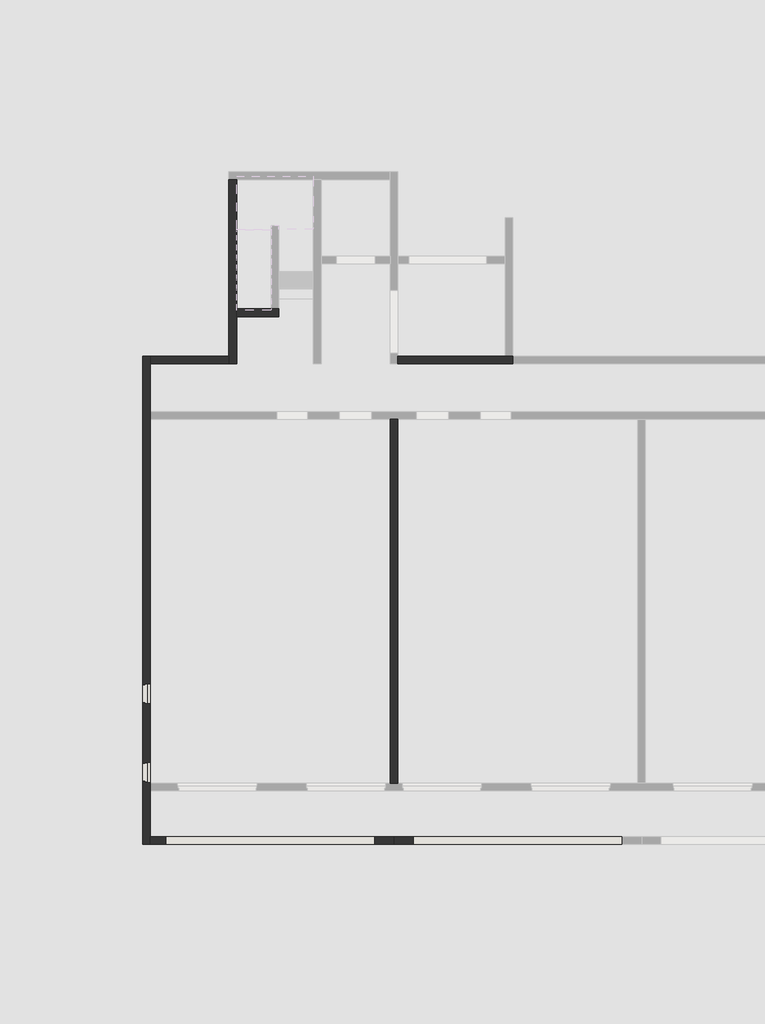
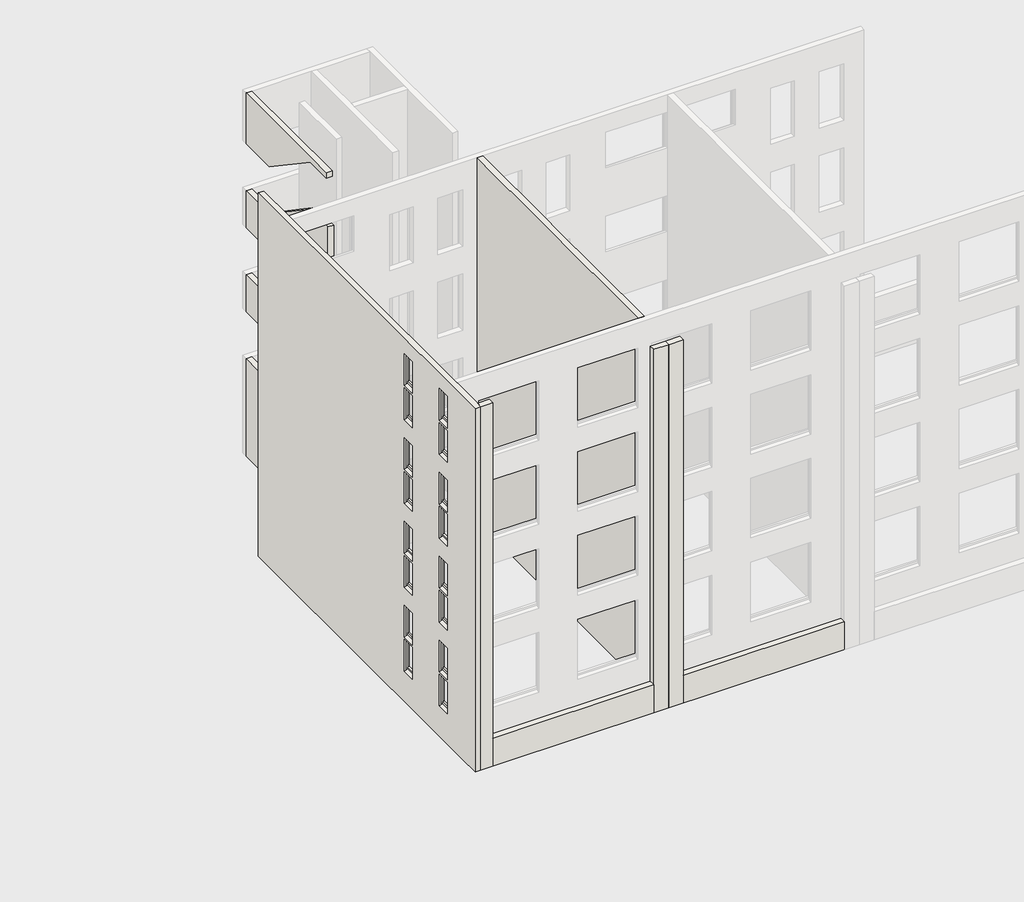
# One storey, part 1 of 5: 11 walls.
"""IFC4 building model written with IfcOpenShell, lengths in millimetres."""

from ifc_helpers import new_model, si_unit, frame, origin, place, context, project, spatial, polyline, outline, extrude, faceted_brep, element, save

model = new_model("IFC4")

# Units and contexts
model_context = context("Model", 3, world=origin())
ifc_project = project(units=[si_unit("LENGTHUNIT", "METRE", prefix="MILLI")], contexts=[model_context])

# Site, building, storey
site = spatial("IfcSite", under=ifc_project)
building = spatial("IfcBuilding", under=site)
storey = spatial("IfcBuildingStorey", under=building, Name="設計GL", Elevation=0.0)

# Walls
placement = place(None, origin())
element("IfcWall", 1, ObjectType="(R)RC200", at=placement, inside=storey, context=model_context, shape_type="Brep", body=[
    faceted_brep([(-11078.7187246, -16870.1171638, -1200.0), (-11078.7187246, -16670.1171638, -1200.0), (-11078.7187246, -15470.1171638, -1200.0), (-11078.7187246, -15270.1171638, -1200.0), (-11078.7187246, -5800.1171638, -1200.0), (-11078.7187246, -5600.1171638, -1200.0), (-11078.7187246, -4350.1171638, -1200.0), (-11078.7187246, -4150.1171638, -1200.0), (-11078.7187246, -4150.1171638, 2100.0), (-11078.7187246, -4150.1171638, 3800.0), (-11078.7187246, -4150.1171638, 5100.0), (-11078.7187246, -4150.1171638, 6800.0), (-11078.7187246, -4150.1171638, 8100.0), (-11078.7187246, -4150.1171638, 9800.0), (-11078.7187246, -4150.1171638, 11100.0), (-11078.7187246, -4150.1171638, 13000.0), (-11078.7187246, -5600.1171638, 13000.0), (-11078.7187246, -5800.1171638, 13000.0), (-11078.7187246, -9720.1171638, 13000.0), (-11078.7187246, -9920.1171638, 13000.0), (-11078.7187246, -15270.1171638, 13000.0), (-11078.7187246, -15470.1171638, 13000.0), (-11078.7187246, -16670.1171638, 13000.0), (-11078.7187246, -16870.1171638, 13000.0), (-11078.7187246, -14730.1171638, 2245.0), (-11078.7187246, -14730.1171638, 1175.0), (-11078.7187246, -15260.1171638, 1175.0), (-11078.7187246, -15260.1171638, 2245.0), (-11078.7187246, -12680.1171638, 2245.0), (-11078.7187246, -12680.1171638, 1175.0), (-11078.7187246, -13210.1171638, 1175.0), (-11078.7187246, -13210.1171638, 2245.0), (-11078.7187246, -12680.1171638, 3465.0), (-11078.7187246, -12680.1171638, 2395.0), (-11078.7187246, -13210.1171638, 2395.0), (-11078.7187246, -13210.1171638, 3465.0), (-11078.7187246, -14730.1171638, 3465.0), (-11078.7187246, -14730.1171638, 2395.0), (-11078.7187246, -15260.1171638, 2395.0), (-11078.7187246, -15260.1171638, 3465.0), (-11078.7187246, -12680.1171638, 6465.0), (-11078.7187246, -12680.1171638, 5395.0), (-11078.7187246, -13210.1171638, 5395.0), (-11078.7187246, -13210.1171638, 6465.0), (-11078.7187246, -14730.1171638, 6465.0), (-11078.7187246, -14730.1171638, 5395.0), (-11078.7187246, -15260.1171638, 5395.0), (-11078.7187246, -15260.1171638, 6465.0), (-11078.7187246, -12680.1171638, 5245.0), (-11078.7187246, -12680.1171638, 4175.0), (-11078.7187246, -13210.1171638, 4175.0), (-11078.7187246, -13210.1171638, 5245.0), (-11078.7187246, -14730.1171638, 5245.0), (-11078.7187246, -14730.1171638, 4175.0), (-11078.7187246, -15260.1171638, 4175.0), (-11078.7187246, -15260.1171638, 5245.0), (-11078.7187246, -12680.1171638, 9465.0), (-11078.7187246, -12680.1171638, 8395.0), (-11078.7187246, -13210.1171638, 8395.0), (-11078.7187246, -13210.1171638, 9465.0), (-11078.7187246, -14730.1171638, 9465.0), (-11078.7187246, -14730.1171638, 8395.0), (-11078.7187246, -15260.1171638, 8395.0), (-11078.7187246, -15260.1171638, 9465.0), (-11078.7187246, -12680.1171638, 8245.0), (-11078.7187246, -12680.1171638, 7175.0), (-11078.7187246, -13210.1171638, 7175.0), (-11078.7187246, -13210.1171638, 8245.0), (-11078.7187246, -14730.1171638, 8245.0), (-11078.7187246, -14730.1171638, 7175.0), (-11078.7187246, -15260.1171638, 7175.0), (-11078.7187246, -15260.1171638, 8245.0), (-11078.7187246, -12680.1171638, 12465.0), (-11078.7187246, -12680.1171638, 11395.0), (-11078.7187246, -13210.1171638, 11395.0), (-11078.7187246, -13210.1171638, 12465.0), (-11078.7187246, -14730.1171638, 12465.0), (-11078.7187246, -14730.1171638, 11395.0), (-11078.7187246, -15260.1171638, 11395.0), (-11078.7187246, -15260.1171638, 12465.0), (-11078.7187246, -12680.1171638, 11245.0), (-11078.7187246, -12680.1171638, 10175.0), (-11078.7187246, -13210.1171638, 10175.0), (-11078.7187246, -13210.1171638, 11245.0), (-11078.7187246, -14730.1171638, 11245.0), (-11078.7187246, -14730.1171638, 10175.0), (-11078.7187246, -15260.1171638, 10175.0), (-11078.7187246, -15260.1171638, 11245.0), (-11278.7187246, -16870.1171638, -1200.0), (-11278.7187246, -16870.1171638, 13000.0), (-11278.7187246, -4150.1171638, 13000.0), (-11278.7187246, -4150.1171638, -1200.0), (-11278.7187246, -15230.1171638, 1085.0), (-11278.7187246, -14760.1171638, 1085.0), (-11278.7187246, -14760.1171638, 2220.0), (-11278.7187246, -15230.1171638, 2220.0), (-11278.7187246, -13180.1171638, 1085.0), (-11278.7187246, -12710.1171638, 1085.0), (-11278.7187246, -12710.1171638, 2220.0), (-11278.7187246, -13180.1171638, 2220.0), (-11278.7187246, -13180.1171638, 2305.0), (-11278.7187246, -12710.1171638, 2305.0), (-11278.7187246, -12710.1171638, 3440.0), (-11278.7187246, -13180.1171638, 3440.0), (-11278.7187246, -15230.1171638, 2305.0), (-11278.7187246, -14760.1171638, 2305.0), (-11278.7187246, -14760.1171638, 3440.0), (-11278.7187246, -15230.1171638, 3440.0), (-11278.7187246, -13180.1171638, 5305.0), (-11278.7187246, -12710.1171638, 5305.0), (-11278.7187246, -12710.1171638, 6440.0), (-11278.7187246, -13180.1171638, 6440.0), (-11278.7187246, -15230.1171638, 5305.0), (-11278.7187246, -14760.1171638, 5305.0), (-11278.7187246, -14760.1171638, 6440.0), (-11278.7187246, -15230.1171638, 6440.0), (-11278.7187246, -13180.1171638, 4085.0), (-11278.7187246, -12710.1171638, 4085.0), (-11278.7187246, -12710.1171638, 5220.0), (-11278.7187246, -13180.1171638, 5220.0), (-11278.7187246, -15230.1171638, 4085.0), (-11278.7187246, -14760.1171638, 4085.0), (-11278.7187246, -14760.1171638, 5220.0), (-11278.7187246, -15230.1171638, 5220.0), (-11278.7187246, -13180.1171638, 8305.0), (-11278.7187246, -12710.1171638, 8305.0), (-11278.7187246, -12710.1171638, 9440.0), (-11278.7187246, -13180.1171638, 9440.0), (-11278.7187246, -15230.1171638, 8305.0), (-11278.7187246, -14760.1171638, 8305.0), (-11278.7187246, -14760.1171638, 9440.0), (-11278.7187246, -15230.1171638, 9440.0), (-11278.7187246, -13180.1171638, 7085.0), (-11278.7187246, -12710.1171638, 7085.0), (-11278.7187246, -12710.1171638, 8220.0), (-11278.7187246, -13180.1171638, 8220.0), (-11278.7187246, -15230.1171638, 7085.0), (-11278.7187246, -14760.1171638, 7085.0), (-11278.7187246, -14760.1171638, 8220.0), (-11278.7187246, -15230.1171638, 8220.0), (-11278.7187246, -13180.1171638, 11305.0), (-11278.7187246, -12710.1171638, 11305.0), (-11278.7187246, -12710.1171638, 12440.0), (-11278.7187246, -13180.1171638, 12440.0), (-11278.7187246, -15230.1171638, 11305.0), (-11278.7187246, -14760.1171638, 11305.0), (-11278.7187246, -14760.1171638, 12440.0), (-11278.7187246, -15230.1171638, 12440.0), (-11278.7187246, -13180.1171638, 10085.0), (-11278.7187246, -12710.1171638, 10085.0), (-11278.7187246, -12710.1171638, 11220.0), (-11278.7187246, -13180.1171638, 11220.0), (-11278.7187246, -15230.1171638, 10085.0), (-11278.7187246, -14760.1171638, 10085.0), (-11278.7187246, -14760.1171638, 11220.0), (-11278.7187246, -15230.1171638, 11220.0), (-11148.7187246, -14730.1171638, 2245.0), (-11148.7187246, -14730.1171638, 1175.0), (-11148.7187246, -15260.1171638, 1175.0), (-11148.7187246, -15260.1171638, 2245.0), (-11148.7187246, -14740.1171638, 1175.0), (-11148.7187246, -15250.1171638, 1175.0), (-11148.7187246, -15250.1171638, 2240.0), (-11148.7187246, -14740.1171638, 2240.0), (-11218.7187246, -14740.1171638, 2240.0), (-11218.7187246, -14740.1171638, 1094.2307692), (-11148.7187246, -14740.1171638, 1105.0), (-11148.7187246, -15250.1171638, 1105.0), (-11218.7187246, -15250.1171638, 1094.2307692), (-11218.7187246, -15250.1171638, 2240.0), (-11218.7187246, -14760.1171638, 1094.2307692), (-11218.7187246, -15230.1171638, 1094.2307692), (-11218.7187246, -15230.1171638, 2220.0), (-11218.7187246, -14760.1171638, 2220.0), (-11148.7187246, -12680.1171638, 2245.0), (-11148.7187246, -12680.1171638, 1175.0), (-11148.7187246, -13210.1171638, 1175.0), (-11148.7187246, -13210.1171638, 2245.0), (-11148.7187246, -12690.1171638, 1175.0), (-11148.7187246, -13200.1171638, 1175.0), (-11148.7187246, -13200.1171638, 2240.0), (-11148.7187246, -12690.1171638, 2240.0), (-11218.7187246, -12690.1171638, 2240.0), (-11218.7187246, -12690.1171638, 1094.2307692), (-11148.7187246, -12690.1171638, 1105.0), (-11148.7187246, -13200.1171638, 1105.0), (-11218.7187246, -13200.1171638, 1094.2307692), (-11218.7187246, -13200.1171638, 2240.0), (-11218.7187246, -12710.1171638, 1094.2307692), (-11218.7187246, -13180.1171638, 1094.2307692), (-11218.7187246, -13180.1171638, 2220.0), (-11218.7187246, -12710.1171638, 2220.0), (-11148.7187246, -12680.1171638, 3465.0), (-11148.7187246, -12680.1171638, 2395.0), (-11148.7187246, -13210.1171638, 2395.0), (-11148.7187246, -13210.1171638, 3465.0), (-11148.7187246, -12690.1171638, 2395.0), (-11148.7187246, -13200.1171638, 2395.0), (-11148.7187246, -13200.1171638, 3460.0), (-11148.7187246, -12690.1171638, 3460.0), (-11218.7187246, -12690.1171638, 3460.0), (-11218.7187246, -12690.1171638, 2314.2307692), (-11148.7187246, -12690.1171638, 2325.0), (-11148.7187246, -13200.1171638, 2325.0), (-11218.7187246, -13200.1171638, 2314.2307692), (-11218.7187246, -13200.1171638, 3460.0), (-11218.7187246, -12710.1171638, 2314.2307692), (-11218.7187246, -13180.1171638, 2314.2307692), (-11218.7187246, -13180.1171638, 3440.0), (-11218.7187246, -12710.1171638, 3440.0), (-11148.7187246, -14730.1171638, 3465.0), (-11148.7187246, -14730.1171638, 2395.0), (-11148.7187246, -15260.1171638, 2395.0), (-11148.7187246, -15260.1171638, 3465.0), (-11148.7187246, -14740.1171638, 2395.0), (-11148.7187246, -15250.1171638, 2395.0), (-11148.7187246, -15250.1171638, 3460.0), (-11148.7187246, -14740.1171638, 3460.0), (-11218.7187246, -14740.1171638, 3460.0), (-11218.7187246, -14740.1171638, 2314.2307692), (-11148.7187246, -14740.1171638, 2325.0), (-11148.7187246, -15250.1171638, 2325.0), (-11218.7187246, -15250.1171638, 2314.2307692), (-11218.7187246, -15250.1171638, 3460.0), (-11218.7187246, -14760.1171638, 2314.2307692), (-11218.7187246, -15230.1171638, 2314.2307692), (-11218.7187246, -15230.1171638, 3440.0), (-11218.7187246, -14760.1171638, 3440.0), (-11148.7187246, -12680.1171638, 6465.0), (-11148.7187246, -12680.1171638, 5395.0), (-11148.7187246, -13210.1171638, 5395.0), (-11148.7187246, -13210.1171638, 6465.0), (-11148.7187246, -12690.1171638, 5395.0), (-11148.7187246, -13200.1171638, 5395.0), (-11148.7187246, -13200.1171638, 6460.0), (-11148.7187246, -12690.1171638, 6460.0), (-11218.7187246, -12690.1171638, 6460.0), (-11218.7187246, -12690.1171638, 5314.2307692), (-11148.7187246, -12690.1171638, 5325.0), (-11148.7187246, -13200.1171638, 5325.0), (-11218.7187246, -13200.1171638, 5314.2307692), (-11218.7187246, -13200.1171638, 6460.0), (-11218.7187246, -12710.1171638, 5314.2307692), (-11218.7187246, -13180.1171638, 5314.2307692), (-11218.7187246, -13180.1171638, 6440.0), (-11218.7187246, -12710.1171638, 6440.0), (-11148.7187246, -14730.1171638, 6465.0), (-11148.7187246, -14730.1171638, 5395.0), (-11148.7187246, -15260.1171638, 5395.0), (-11148.7187246, -15260.1171638, 6465.0), (-11148.7187246, -14740.1171638, 5395.0), (-11148.7187246, -15250.1171638, 5395.0), (-11148.7187246, -15250.1171638, 6460.0), (-11148.7187246, -14740.1171638, 6460.0), (-11218.7187246, -14740.1171638, 6460.0), (-11218.7187246, -14740.1171638, 5314.2307692), (-11148.7187246, -14740.1171638, 5325.0), (-11148.7187246, -15250.1171638, 5325.0), (-11218.7187246, -15250.1171638, 5314.2307692), (-11218.7187246, -15250.1171638, 6460.0), (-11218.7187246, -14760.1171638, 5314.2307692), (-11218.7187246, -15230.1171638, 5314.2307692), (-11218.7187246, -15230.1171638, 6440.0), (-11218.7187246, -14760.1171638, 6440.0), (-11148.7187246, -12680.1171638, 5245.0), (-11148.7187246, -12680.1171638, 4175.0), (-11148.7187246, -13210.1171638, 4175.0), (-11148.7187246, -13210.1171638, 5245.0), (-11148.7187246, -12690.1171638, 4175.0), (-11148.7187246, -13200.1171638, 4175.0), (-11148.7187246, -13200.1171638, 5240.0), (-11148.7187246, -12690.1171638, 5240.0), (-11218.7187246, -12690.1171638, 5240.0), (-11218.7187246, -12690.1171638, 4094.2307692), (-11148.7187246, -12690.1171638, 4105.0), (-11148.7187246, -13200.1171638, 4105.0), (-11218.7187246, -13200.1171638, 4094.2307692), (-11218.7187246, -13200.1171638, 5240.0), (-11218.7187246, -12710.1171638, 4094.2307692), (-11218.7187246, -13180.1171638, 4094.2307692), (-11218.7187246, -13180.1171638, 5220.0), (-11218.7187246, -12710.1171638, 5220.0), (-11148.7187246, -14730.1171638, 5245.0), (-11148.7187246, -14730.1171638, 4175.0), (-11148.7187246, -15260.1171638, 4175.0), (-11148.7187246, -15260.1171638, 5245.0), (-11148.7187246, -14740.1171638, 4175.0), (-11148.7187246, -15250.1171638, 4175.0), (-11148.7187246, -15250.1171638, 5240.0), (-11148.7187246, -14740.1171638, 5240.0), (-11218.7187246, -14740.1171638, 5240.0), (-11218.7187246, -14740.1171638, 4094.2307692), (-11148.7187246, -14740.1171638, 4105.0), (-11148.7187246, -15250.1171638, 4105.0), (-11218.7187246, -15250.1171638, 4094.2307692), (-11218.7187246, -15250.1171638, 5240.0), (-11218.7187246, -14760.1171638, 4094.2307692), (-11218.7187246, -15230.1171638, 4094.2307692), (-11218.7187246, -15230.1171638, 5220.0), (-11218.7187246, -14760.1171638, 5220.0), (-11148.7187246, -12680.1171638, 9465.0), (-11148.7187246, -12680.1171638, 8395.0), (-11148.7187246, -13210.1171638, 8395.0), (-11148.7187246, -13210.1171638, 9465.0), (-11148.7187246, -12690.1171638, 8395.0), (-11148.7187246, -13200.1171638, 8395.0), (-11148.7187246, -13200.1171638, 9460.0), (-11148.7187246, -12690.1171638, 9460.0), (-11218.7187246, -12690.1171638, 9460.0), (-11218.7187246, -12690.1171638, 8314.2307692), (-11148.7187246, -12690.1171638, 8325.0), (-11148.7187246, -13200.1171638, 8325.0), (-11218.7187246, -13200.1171638, 8314.2307692), (-11218.7187246, -13200.1171638, 9460.0), (-11218.7187246, -12710.1171638, 8314.2307692), (-11218.7187246, -13180.1171638, 8314.2307692), (-11218.7187246, -13180.1171638, 9440.0), (-11218.7187246, -12710.1171638, 9440.0), (-11148.7187246, -14730.1171638, 9465.0), (-11148.7187246, -14730.1171638, 8395.0), (-11148.7187246, -15260.1171638, 8395.0), (-11148.7187246, -15260.1171638, 9465.0), (-11148.7187246, -14740.1171638, 8395.0), (-11148.7187246, -15250.1171638, 8395.0), (-11148.7187246, -15250.1171638, 9460.0), (-11148.7187246, -14740.1171638, 9460.0), (-11218.7187246, -14740.1171638, 9460.0), (-11218.7187246, -14740.1171638, 8314.2307692), (-11148.7187246, -14740.1171638, 8325.0), (-11148.7187246, -15250.1171638, 8325.0), (-11218.7187246, -15250.1171638, 8314.2307692), (-11218.7187246, -15250.1171638, 9460.0), (-11218.7187246, -14760.1171638, 8314.2307692), (-11218.7187246, -15230.1171638, 8314.2307692), (-11218.7187246, -15230.1171638, 9440.0), (-11218.7187246, -14760.1171638, 9440.0), (-11148.7187246, -12680.1171638, 8245.0), (-11148.7187246, -12680.1171638, 7175.0), (-11148.7187246, -13210.1171638, 7175.0), (-11148.7187246, -13210.1171638, 8245.0), (-11148.7187246, -12690.1171638, 7175.0), (-11148.7187246, -13200.1171638, 7175.0), (-11148.7187246, -13200.1171638, 8240.0), (-11148.7187246, -12690.1171638, 8240.0), (-11218.7187246, -12690.1171638, 8240.0), (-11218.7187246, -12690.1171638, 7094.2307692), (-11148.7187246, -12690.1171638, 7105.0), (-11148.7187246, -13200.1171638, 7105.0), (-11218.7187246, -13200.1171638, 7094.2307692), (-11218.7187246, -13200.1171638, 8240.0), (-11218.7187246, -12710.1171638, 7094.2307692), (-11218.7187246, -13180.1171638, 7094.2307692), (-11218.7187246, -13180.1171638, 8220.0), (-11218.7187246, -12710.1171638, 8220.0), (-11148.7187246, -14730.1171638, 8245.0), (-11148.7187246, -14730.1171638, 7175.0), (-11148.7187246, -15260.1171638, 7175.0), (-11148.7187246, -15260.1171638, 8245.0), (-11148.7187246, -14740.1171638, 7175.0), (-11148.7187246, -15250.1171638, 7175.0), (-11148.7187246, -15250.1171638, 8240.0), (-11148.7187246, -14740.1171638, 8240.0), (-11218.7187246, -14740.1171638, 8240.0), (-11218.7187246, -14740.1171638, 7094.2307692), (-11148.7187246, -14740.1171638, 7105.0), (-11148.7187246, -15250.1171638, 7105.0), (-11218.7187246, -15250.1171638, 7094.2307692), (-11218.7187246, -15250.1171638, 8240.0), (-11218.7187246, -14760.1171638, 7094.2307692), (-11218.7187246, -15230.1171638, 7094.2307692), (-11218.7187246, -15230.1171638, 8220.0), (-11218.7187246, -14760.1171638, 8220.0), (-11148.7187246, -12680.1171638, 12465.0), (-11148.7187246, -12680.1171638, 11395.0), (-11148.7187246, -13210.1171638, 11395.0), (-11148.7187246, -13210.1171638, 12465.0), (-11148.7187246, -12690.1171638, 11395.0), (-11148.7187246, -13200.1171638, 11395.0), (-11148.7187246, -13200.1171638, 12460.0), (-11148.7187246, -12690.1171638, 12460.0), (-11218.7187246, -12690.1171638, 12460.0), (-11218.7187246, -12690.1171638, 11314.2307692), (-11148.7187246, -12690.1171638, 11325.0), (-11148.7187246, -13200.1171638, 11325.0), (-11218.7187246, -13200.1171638, 11314.2307692), (-11218.7187246, -13200.1171638, 12460.0), (-11218.7187246, -12710.1171638, 11314.2307692), (-11218.7187246, -13180.1171638, 11314.2307692), (-11218.7187246, -13180.1171638, 12440.0), (-11218.7187246, -12710.1171638, 12440.0), (-11148.7187246, -14730.1171638, 12465.0), (-11148.7187246, -14730.1171638, 11395.0), (-11148.7187246, -15260.1171638, 11395.0), (-11148.7187246, -15260.1171638, 12465.0), (-11148.7187246, -14740.1171638, 11395.0), (-11148.7187246, -15250.1171638, 11395.0), (-11148.7187246, -15250.1171638, 12460.0), (-11148.7187246, -14740.1171638, 12460.0), (-11218.7187246, -14740.1171638, 12460.0), (-11218.7187246, -14740.1171638, 11314.2307692), (-11148.7187246, -14740.1171638, 11325.0), (-11148.7187246, -15250.1171638, 11325.0), (-11218.7187246, -15250.1171638, 11314.2307692), (-11218.7187246, -15250.1171638, 12460.0), (-11218.7187246, -14760.1171638, 11314.2307692), (-11218.7187246, -15230.1171638, 11314.2307692), (-11218.7187246, -15230.1171638, 12440.0), (-11218.7187246, -14760.1171638, 12440.0), (-11148.7187246, -12680.1171638, 11245.0), (-11148.7187246, -12680.1171638, 10175.0), (-11148.7187246, -13210.1171638, 10175.0), (-11148.7187246, -13210.1171638, 11245.0), (-11148.7187246, -12690.1171638, 10175.0), (-11148.7187246, -13200.1171638, 10175.0), (-11148.7187246, -13200.1171638, 11240.0), (-11148.7187246, -12690.1171638, 11240.0), (-11218.7187246, -12690.1171638, 11240.0), (-11218.7187246, -12690.1171638, 10094.2307692), (-11148.7187246, -12690.1171638, 10105.0), (-11148.7187246, -13200.1171638, 10105.0), (-11218.7187246, -13200.1171638, 10094.2307692), (-11218.7187246, -13200.1171638, 11240.0), (-11218.7187246, -12710.1171638, 10094.2307692), (-11218.7187246, -13180.1171638, 10094.2307692), (-11218.7187246, -13180.1171638, 11220.0), (-11218.7187246, -12710.1171638, 11220.0), (-11148.7187246, -14730.1171638, 11245.0), (-11148.7187246, -14730.1171638, 10175.0), (-11148.7187246, -15260.1171638, 10175.0), (-11148.7187246, -15260.1171638, 11245.0), (-11148.7187246, -14740.1171638, 10175.0), (-11148.7187246, -15250.1171638, 10175.0), (-11148.7187246, -15250.1171638, 11240.0), (-11148.7187246, -14740.1171638, 11240.0), (-11218.7187246, -14740.1171638, 11240.0), (-11218.7187246, -14740.1171638, 10094.2307692), (-11148.7187246, -14740.1171638, 10105.0), (-11148.7187246, -15250.1171638, 10105.0), (-11218.7187246, -15250.1171638, 10094.2307692), (-11218.7187246, -15250.1171638, 11240.0), (-11218.7187246, -14760.1171638, 10094.2307692), (-11218.7187246, -15230.1171638, 10094.2307692), (-11218.7187246, -15230.1171638, 11220.0), (-11218.7187246, -14760.1171638, 11220.0)], [[[0, 1, 2, 3, 4, 5, 6, 7, 8, 9, 10, 11, 12, 13, 14, 15, 16, 17, 18, 19, 20, 21, 22, 23], [24, 25, 26, 27], [28, 29, 30, 31], [32, 33, 34, 35], [36, 37, 38, 39], [40, 41, 42, 43], [44, 45, 46, 47], [48, 49, 50, 51], [52, 53, 54, 55], [56, 57, 58, 59], [60, 61, 62, 63], [64, 65, 66, 67], [68, 69, 70, 71], [72, 73, 74, 75], [76, 77, 78, 79], [80, 81, 82, 83], [84, 85, 86, 87]], [[88, 89, 90, 91], [92, 93, 94, 95], [96, 97, 98, 99], [100, 101, 102, 103], [104, 105, 106, 107], [108, 109, 110, 111], [112, 113, 114, 115], [116, 117, 118, 119], [120, 121, 122, 123], [124, 125, 126, 127], [128, 129, 130, 131], [132, 133, 134, 135], [136, 137, 138, 139], [140, 141, 142, 143], [144, 145, 146, 147], [148, 149, 150, 151], [152, 153, 154, 155]], [[7, 6, 5, 4, 3, 2, 1, 0, 88, 91]], [[23, 22, 21, 20, 19, 18, 17, 16, 15, 90, 89]], [[156, 157, 25, 24]], [[158, 159, 27, 26]], [[25, 157, 160, 161, 158, 26]], [[157, 156, 159, 158, 161, 162, 163, 160]], [[159, 156, 24, 27]], [[163, 164, 165, 166, 160]], [[167, 168, 169, 162, 161]], [[166, 165, 170, 93, 92, 171, 168, 167]], [[165, 164, 169, 168, 171, 172, 173, 170]], [[164, 163, 162, 169]], [[166, 167, 161, 160]], [[173, 94, 93, 170]], [[171, 92, 95, 172]], [[94, 173, 172, 95]], [[174, 175, 29, 28]], [[176, 177, 31, 30]], [[29, 175, 178, 179, 176, 30]], [[175, 174, 177, 176, 179, 180, 181, 178]], [[177, 174, 28, 31]], [[181, 182, 183, 184, 178]], [[185, 186, 187, 180, 179]], [[184, 183, 188, 97, 96, 189, 186, 185]], [[183, 182, 187, 186, 189, 190, 191, 188]], [[182, 181, 180, 187]], [[184, 185, 179, 178]], [[191, 98, 97, 188]], [[189, 96, 99, 190]], [[98, 191, 190, 99]], [[192, 193, 33, 32]], [[194, 195, 35, 34]], [[33, 193, 196, 197, 194, 34]], [[193, 192, 195, 194, 197, 198, 199, 196]], [[195, 192, 32, 35]], [[199, 200, 201, 202, 196]], [[203, 204, 205, 198, 197]], [[202, 201, 206, 101, 100, 207, 204, 203]], [[201, 200, 205, 204, 207, 208, 209, 206]], [[200, 199, 198, 205]], [[202, 203, 197, 196]], [[209, 102, 101, 206]], [[207, 100, 103, 208]], [[102, 209, 208, 103]], [[210, 211, 37, 36]], [[212, 213, 39, 38]], [[37, 211, 214, 215, 212, 38]], [[211, 210, 213, 212, 215, 216, 217, 214]], [[213, 210, 36, 39]], [[217, 218, 219, 220, 214]], [[221, 222, 223, 216, 215]], [[220, 219, 224, 105, 104, 225, 222, 221]], [[219, 218, 223, 222, 225, 226, 227, 224]], [[218, 217, 216, 223]], [[220, 221, 215, 214]], [[227, 106, 105, 224]], [[225, 104, 107, 226]], [[106, 227, 226, 107]], [[0, 23, 89, 88]], [[228, 229, 41, 40]], [[230, 231, 43, 42]], [[41, 229, 232, 233, 230, 42]], [[229, 228, 231, 230, 233, 234, 235, 232]], [[231, 228, 40, 43]], [[235, 236, 237, 238, 232]], [[239, 240, 241, 234, 233]], [[238, 237, 242, 109, 108, 243, 240, 239]], [[237, 236, 241, 240, 243, 244, 245, 242]], [[236, 235, 234, 241]], [[238, 239, 233, 232]], [[245, 110, 109, 242]], [[243, 108, 111, 244]], [[110, 245, 244, 111]], [[246, 247, 45, 44]], [[248, 249, 47, 46]], [[45, 247, 250, 251, 248, 46]], [[247, 246, 249, 248, 251, 252, 253, 250]], [[249, 246, 44, 47]], [[253, 254, 255, 256, 250]], [[257, 258, 259, 252, 251]], [[256, 255, 260, 113, 112, 261, 258, 257]], [[255, 254, 259, 258, 261, 262, 263, 260]], [[254, 253, 252, 259]], [[256, 257, 251, 250]], [[263, 114, 113, 260]], [[261, 112, 115, 262]], [[114, 263, 262, 115]], [[264, 265, 49, 48]], [[266, 267, 51, 50]], [[49, 265, 268, 269, 266, 50]], [[265, 264, 267, 266, 269, 270, 271, 268]], [[267, 264, 48, 51]], [[271, 272, 273, 274, 268]], [[275, 276, 277, 270, 269]], [[274, 273, 278, 117, 116, 279, 276, 275]], [[273, 272, 277, 276, 279, 280, 281, 278]], [[272, 271, 270, 277]], [[274, 275, 269, 268]], [[281, 118, 117, 278]], [[279, 116, 119, 280]], [[118, 281, 280, 119]], [[282, 283, 53, 52]], [[284, 285, 55, 54]], [[53, 283, 286, 287, 284, 54]], [[283, 282, 285, 284, 287, 288, 289, 286]], [[285, 282, 52, 55]], [[289, 290, 291, 292, 286]], [[293, 294, 295, 288, 287]], [[292, 291, 296, 121, 120, 297, 294, 293]], [[291, 290, 295, 294, 297, 298, 299, 296]], [[290, 289, 288, 295]], [[292, 293, 287, 286]], [[299, 122, 121, 296]], [[297, 120, 123, 298]], [[122, 299, 298, 123]], [[300, 301, 57, 56]], [[302, 303, 59, 58]], [[57, 301, 304, 305, 302, 58]], [[301, 300, 303, 302, 305, 306, 307, 304]], [[303, 300, 56, 59]], [[307, 308, 309, 310, 304]], [[311, 312, 313, 306, 305]], [[310, 309, 314, 125, 124, 315, 312, 311]], [[309, 308, 313, 312, 315, 316, 317, 314]], [[308, 307, 306, 313]], [[310, 311, 305, 304]], [[317, 126, 125, 314]], [[315, 124, 127, 316]], [[126, 317, 316, 127]], [[318, 319, 61, 60]], [[320, 321, 63, 62]], [[61, 319, 322, 323, 320, 62]], [[319, 318, 321, 320, 323, 324, 325, 322]], [[321, 318, 60, 63]], [[325, 326, 327, 328, 322]], [[329, 330, 331, 324, 323]], [[328, 327, 332, 129, 128, 333, 330, 329]], [[327, 326, 331, 330, 333, 334, 335, 332]], [[326, 325, 324, 331]], [[328, 329, 323, 322]], [[335, 130, 129, 332]], [[333, 128, 131, 334]], [[130, 335, 334, 131]], [[336, 337, 65, 64]], [[338, 339, 67, 66]], [[65, 337, 340, 341, 338, 66]], [[337, 336, 339, 338, 341, 342, 343, 340]], [[339, 336, 64, 67]], [[343, 344, 345, 346, 340]], [[347, 348, 349, 342, 341]], [[346, 345, 350, 133, 132, 351, 348, 347]], [[345, 344, 349, 348, 351, 352, 353, 350]], [[344, 343, 342, 349]], [[346, 347, 341, 340]], [[353, 134, 133, 350]], [[351, 132, 135, 352]], [[134, 353, 352, 135]], [[354, 355, 69, 68]], [[356, 357, 71, 70]], [[69, 355, 358, 359, 356, 70]], [[355, 354, 357, 356, 359, 360, 361, 358]], [[357, 354, 68, 71]], [[361, 362, 363, 364, 358]], [[365, 366, 367, 360, 359]], [[364, 363, 368, 137, 136, 369, 366, 365]], [[363, 362, 367, 366, 369, 370, 371, 368]], [[362, 361, 360, 367]], [[364, 365, 359, 358]], [[371, 138, 137, 368]], [[369, 136, 139, 370]], [[138, 371, 370, 139]], [[372, 373, 73, 72]], [[374, 375, 75, 74]], [[73, 373, 376, 377, 374, 74]], [[373, 372, 375, 374, 377, 378, 379, 376]], [[375, 372, 72, 75]], [[379, 380, 381, 382, 376]], [[383, 384, 385, 378, 377]], [[382, 381, 386, 141, 140, 387, 384, 383]], [[381, 380, 385, 384, 387, 388, 389, 386]], [[380, 379, 378, 385]], [[382, 383, 377, 376]], [[389, 142, 141, 386]], [[387, 140, 143, 388]], [[142, 389, 388, 143]], [[390, 391, 77, 76]], [[392, 393, 79, 78]], [[77, 391, 394, 395, 392, 78]], [[391, 390, 393, 392, 395, 396, 397, 394]], [[393, 390, 76, 79]], [[397, 398, 399, 400, 394]], [[401, 402, 403, 396, 395]], [[400, 399, 404, 145, 144, 405, 402, 401]], [[399, 398, 403, 402, 405, 406, 407, 404]], [[398, 397, 396, 403]], [[400, 401, 395, 394]], [[407, 146, 145, 404]], [[405, 144, 147, 406]], [[146, 407, 406, 147]], [[408, 409, 81, 80]], [[410, 411, 83, 82]], [[81, 409, 412, 413, 410, 82]], [[409, 408, 411, 410, 413, 414, 415, 412]], [[411, 408, 80, 83]], [[415, 416, 417, 418, 412]], [[419, 420, 421, 414, 413]], [[418, 417, 422, 149, 148, 423, 420, 419]], [[417, 416, 421, 420, 423, 424, 425, 422]], [[416, 415, 414, 421]], [[418, 419, 413, 412]], [[425, 150, 149, 422]], [[423, 148, 151, 424]], [[150, 425, 424, 151]], [[426, 427, 85, 84]], [[428, 429, 87, 86]], [[85, 427, 430, 431, 428, 86]], [[427, 426, 429, 428, 431, 432, 433, 430]], [[429, 426, 84, 87]], [[433, 434, 435, 436, 430]], [[437, 438, 439, 432, 431]], [[436, 435, 440, 153, 152, 441, 438, 437]], [[435, 434, 439, 438, 441, 442, 443, 440]], [[434, 433, 432, 439]], [[436, 437, 431, 430]], [[443, 154, 153, 440]], [[441, 152, 155, 442]], [[154, 443, 442, 155]], [[7, 91, 90, 15, 14, 13, 12, 11, 10, 9, 8]]]),
])
element("IfcWall", 2, ObjectType="(R)RC200", at=placement, inside=storey, context=model_context, shape_type="Brep", body=[
    faceted_brep([(-4828.7187246, -5800.1171638, -1200.0), (-4828.7187246, -15270.1171638, -1200.0), (-4828.7187246, -15270.1171638, 13000.0), (-4828.7187246, -9920.1171638, 13000.0), (-4828.7187246, -9720.1171638, 13000.0), (-4828.7187246, -5800.1171638, 13000.0), (-4628.7187246, -5800.1171638, -1200.0), (-4628.7187246, -5800.1171638, 13000.0), (-4628.7187246, -9720.1171638, 13000.0), (-4628.7187246, -9920.1171638, 13000.0), (-4628.7187246, -15270.1171638, 13000.0), (-4628.7187246, -15270.1171638, -1200.0)], [[[0, 1, 2, 3, 4, 5]], [[6, 7, 8, 9, 10, 11]], [[1, 0, 6, 11]], [[5, 4, 3, 2, 10, 9, 8, 7]], [[0, 5, 7, 6]], [[2, 1, 11, 10]]]),
])
element("IfcWall", 3, ObjectType="(R)RC200", at=placement, inside=storey, context=model_context, shape_type="SweptSolid", body=[
    extrude(outline(polyline([(-9028.7187246, -4350.1171638), (-11078.7187246, -4350.1171638), (-11078.7187246, -4150.1171638), (-9028.7187246, -4150.1171638), (-9028.7187246, -4350.1171638)])), frame((0.0, 0.0, -1200.0), z_axis=(0.0, 0.0, 1.0), x_axis=(1.0, 0.0, 0.0)), (0.0, 0.0, 1.0), 3300.0),
])
element("IfcWall", 4, ObjectType="(R)RC200", at=placement, inside=storey, context=model_context, shape_type="Brep", body=[
    faceted_brep([(-11078.7187246, -16870.1171638, -1200.0), (-10678.7187246, -16870.1171638, -1200.0), (-10678.7187246, -16870.1171638, 1000.0), (-10678.7187246, -16870.1171638, 3500.0), (-10678.7187246, -16870.1171638, 4000.0), (-10678.7187246, -16870.1171638, 6500.0), (-10678.7187246, -16870.1171638, 7000.0), (-10678.7187246, -16870.1171638, 9500.0), (-10678.7187246, -16870.1171638, 10000.0), (-10678.7187246, -16870.1171638, 12500.0), (-10678.7187246, -16870.1171638, 13000.0), (-11078.7187246, -16870.1171638, 13000.0), (-11078.7187246, -16670.1171638, -1200.0), (-11078.7187246, -16670.1171638, 13000.0), (-10678.7187246, -16670.1171638, 13000.0), (-10678.7187246, -16670.1171638, 12500.0), (-10678.7187246, -16670.1171638, 10000.0), (-10678.7187246, -16670.1171638, 9500.0), (-10678.7187246, -16670.1171638, 7000.0), (-10678.7187246, -16670.1171638, 6500.0), (-10678.7187246, -16670.1171638, 4000.0), (-10678.7187246, -16670.1171638, 3500.0), (-10678.7187246, -16670.1171638, 1000.0), (-10678.7187246, -16670.1171638, -1200.0)], [[[0, 1, 2, 3, 4, 5, 6, 7, 8, 9, 10, 11]], [[12, 13, 14, 15, 16, 17, 18, 19, 20, 21, 22, 23]], [[1, 0, 12, 23]], [[11, 10, 14, 13]], [[0, 11, 13, 12]], [[1, 23, 22, 21, 20, 19, 18, 17, 16, 15, 14, 10, 9, 8, 7, 6, 5, 4, 3, 2]]]),
])
element("IfcWall", 5, ObjectType="(R)RC200", at=placement, inside=storey, context=model_context, shape_type="SweptSolid", body=[
    extrude(outline(polyline([(-5228.7187246, -16870.1171638), (-10678.7187246, -16870.1171638), (-10678.7187246, -16670.1171638), (-5228.7187246, -16670.1171638), (-5228.7187246, -16870.1171638)])), frame((0.0, 0.0, -1200.0), z_axis=(0.0, 0.0, 1.0), x_axis=(1.0, 0.0, 0.0)), (0.0, 0.0, 1.0), 2200.0),
])
element("IfcWall", 6, ObjectType="(R)RC200", at=placement, inside=storey, context=model_context, shape_type="Brep", body=[
    faceted_brep([(-5228.7187246, -16870.1171638, 13000.0), (-5228.7187246, -16870.1171638, 12500.0), (-5228.7187246, -16870.1171638, 10000.0), (-5228.7187246, -16870.1171638, 9500.0), (-5228.7187246, -16870.1171638, 7000.0), (-5228.7187246, -16870.1171638, 6500.0), (-5228.7187246, -16870.1171638, 4000.0), (-5228.7187246, -16870.1171638, 3500.0), (-5228.7187246, -16870.1171638, 1000.0), (-5228.7187246, -16870.1171638, -1200.0), (-4728.7187246, -16870.1171638, -1200.0), (-4728.7187246, -16870.1171638, 13000.0), (-5228.7187246, -16670.1171638, -1200.0), (-5228.7187246, -16670.1171638, 1000.0), (-5228.7187246, -16670.1171638, 3500.0), (-5228.7187246, -16670.1171638, 4000.0), (-5228.7187246, -16670.1171638, 6500.0), (-5228.7187246, -16670.1171638, 7000.0), (-5228.7187246, -16670.1171638, 9500.0), (-5228.7187246, -16670.1171638, 10000.0), (-5228.7187246, -16670.1171638, 12500.0), (-5228.7187246, -16670.1171638, 13000.0), (-4728.7187246, -16670.1171638, 13000.0), (-4728.7187246, -16670.1171638, -1200.0)], [[[0, 1, 2, 3, 4, 5, 6, 7, 8, 9, 10, 11]], [[12, 13, 14, 15, 16, 17, 18, 19, 20, 21, 22, 23]], [[10, 9, 12, 23]], [[11, 10, 23, 22]], [[0, 11, 22, 21]], [[0, 21, 20, 19, 18, 17, 16, 15, 14, 13, 12, 9, 8, 7, 6, 5, 4, 3, 2, 1]]]),
])
element("IfcWall", 7, ObjectType="(R)RC200", at=placement, inside=storey, context=model_context, shape_type="Brep", body=[
    faceted_brep([(-4728.7187246, -16870.1171638, -1200.0), (-4228.7187246, -16870.1171638, -1200.0), (-4228.7187246, -16870.1171638, 1000.0), (-4228.7187246, -16870.1171638, 3500.0), (-4228.7187246, -16870.1171638, 4000.0), (-4228.7187246, -16870.1171638, 6500.0), (-4228.7187246, -16870.1171638, 7000.0), (-4228.7187246, -16870.1171638, 9500.0), (-4228.7187246, -16870.1171638, 10000.0), (-4228.7187246, -16870.1171638, 12500.0), (-4228.7187246, -16870.1171638, 13000.0), (-4728.7187246, -16870.1171638, 13000.0), (-4728.7187246, -16670.1171638, -1200.0), (-4728.7187246, -16670.1171638, 13000.0), (-4228.7187246, -16670.1171638, 13000.0), (-4228.7187246, -16670.1171638, 12500.0), (-4228.7187246, -16670.1171638, 10000.0), (-4228.7187246, -16670.1171638, 9500.0), (-4228.7187246, -16670.1171638, 7000.0), (-4228.7187246, -16670.1171638, 6500.0), (-4228.7187246, -16670.1171638, 4000.0), (-4228.7187246, -16670.1171638, 3500.0), (-4228.7187246, -16670.1171638, 1000.0), (-4228.7187246, -16670.1171638, -1200.0)], [[[0, 1, 2, 3, 4, 5, 6, 7, 8, 9, 10, 11]], [[12, 13, 14, 15, 16, 17, 18, 19, 20, 21, 22, 23]], [[1, 0, 12, 23]], [[11, 10, 14, 13]], [[0, 11, 13, 12]], [[1, 23, 22, 21, 20, 19, 18, 17, 16, 15, 14, 10, 9, 8, 7, 6, 5, 4, 3, 2]]]),
])
element("IfcWall", 8, ObjectType="(R)RC200", at=placement, inside=storey, context=model_context, shape_type="SweptSolid", body=[
    extrude(outline(polyline([(1221.2812754, -16870.1171638), (-4228.7187246, -16870.1171638), (-4228.7187246, -16670.1171638), (1221.2812754, -16670.1171638), (1221.2812754, -16870.1171638)])), frame((0.0, 0.0, -1200.0), z_axis=(0.0, 0.0, 1.0), x_axis=(1.0, 0.0, 0.0)), (0.0, 0.0, 1.0), 2200.0),
])
element("IfcWall", 9, ObjectType="(R)RC200", at=placement, inside=storey, context=model_context, shape_type="Brep", body=[
    faceted_brep([(-9028.7187246, -4350.1171638, -1200.0), (-9028.7187246, -4350.1171638, 2100.0), (-9028.7187246, -4350.1171638, 3800.0), (-9028.7187246, -4350.1171638, 5100.0), (-9028.7187246, -4350.1171638, 5118.2352941), (-9028.7187246, -3315.3470092, 5118.2352941), (-9028.7187246, -916.2145243, 3500.0), (-9028.7187246, 449.8828362, 3500.0), (-9028.7187246, 449.8828362, -1200.0), (-9028.7187246, -4150.1171638, -1200.0), (-8828.7187246, -4350.1171638, 5118.2352941), (-8828.7187246, -4350.1171638, -1200.0), (-8828.7187246, -3120.1171638, -1200.0), (-8828.7187246, -2920.1171638, -1200.0), (-8828.7187246, 449.8828362, -1200.0), (-8828.7187246, 449.8828362, 3500.0), (-8828.7187246, -916.2145243, 3500.0), (-8828.7187246, -3315.3470092, 5118.2352941)], [[[0, 1, 2, 3, 4, 5, 6, 7, 8, 9]], [[10, 11, 12, 13, 14, 15, 16, 17]], [[0, 11, 10, 4, 3, 2, 1]], [[0, 9, 8, 14, 13, 12, 11]], [[5, 4, 10, 17]], [[6, 5, 17, 16]], [[7, 6, 16, 15]], [[8, 7, 15, 14]]]),
    faceted_brep([(-9028.7187246, 449.8828362, 11181.7647059), (-9028.7187246, -916.2145243, 11181.7647059), (-9028.7187246, -3315.3470092, 12800.0), (-9028.7187246, -4250.1171638, 12800.0), (-9028.7187246, -4250.1171638, 13000.0), (-9028.7187246, 449.8828362, 13000.0), (-8828.7187246, 449.8828362, 11181.7647059), (-8828.7187246, 449.8828362, 13000.0), (-8828.7187246, -4250.1171638, 13000.0), (-8828.7187246, -4250.1171638, 12800.0), (-8828.7187246, -3315.3470092, 12800.0), (-8828.7187246, -916.2145243, 11181.7647059)], [[[0, 1, 2, 3, 4, 5]], [[6, 7, 8, 9, 10, 11]], [[0, 5, 7, 6]], [[5, 4, 8, 7]], [[1, 0, 6, 11]], [[2, 1, 11, 10]], [[3, 2, 10, 9]], [[4, 3, 9, 8]]]),
    faceted_brep([(-9028.7187246, -916.2145243, 5181.7647059), (-9028.7187246, -3315.3470092, 6800.0), (-9028.7187246, -4150.1171638, 6800.0), (-9028.7187246, -4350.1171638, 6800.0), (-9028.7187246, -4350.1171638, 8100.0), (-9028.7187246, -4350.1171638, 8118.2352941), (-9028.7187246, -3315.3470092, 8118.2352941), (-9028.7187246, -916.2145243, 6500.0), (-9028.7187246, 449.8828362, 6500.0), (-9028.7187246, 449.8828362, 5181.7647059), (-8828.7187246, -916.2145243, 5181.7647059), (-8828.7187246, 449.8828362, 5181.7647059), (-8828.7187246, 449.8828362, 6500.0), (-8828.7187246, -916.2145243, 6500.0), (-8828.7187246, -3315.3470092, 8118.2352941), (-8828.7187246, -4350.1171638, 8118.2352941), (-8828.7187246, -4350.1171638, 6800.0), (-8828.7187246, -3315.3470092, 6800.0)], [[[0, 1, 2, 3, 4, 5, 6, 7, 8, 9]], [[10, 11, 12, 13, 14, 15, 16, 17]], [[1, 0, 10, 17]], [[3, 2, 1, 17, 16]], [[6, 5, 15, 14]], [[7, 6, 14, 13]], [[8, 7, 13, 12]], [[0, 9, 11, 10]], [[5, 4, 3, 16, 15]], [[9, 8, 12, 11]]]),
    faceted_brep([(-9028.7187246, -916.2145243, 8181.7647059), (-9028.7187246, -3315.3470092, 9800.0), (-9028.7187246, -4150.1171638, 9800.0), (-9028.7187246, -4350.1171638, 9800.0), (-9028.7187246, -4350.1171638, 11100.0), (-9028.7187246, -4350.1171638, 11118.2352941), (-9028.7187246, -3315.3470092, 11118.2352941), (-9028.7187246, -916.2145243, 9500.0), (-9028.7187246, 449.8828362, 9500.0), (-9028.7187246, 449.8828362, 8181.7647059), (-8828.7187246, -916.2145243, 8181.7647059), (-8828.7187246, 449.8828362, 8181.7647059), (-8828.7187246, 449.8828362, 9500.0), (-8828.7187246, -916.2145243, 9500.0), (-8828.7187246, -3315.3470092, 11118.2352941), (-8828.7187246, -4350.1171638, 11118.2352941), (-8828.7187246, -4350.1171638, 9800.0), (-8828.7187246, -3315.3470092, 9800.0)], [[[0, 1, 2, 3, 4, 5, 6, 7, 8, 9]], [[10, 11, 12, 13, 14, 15, 16, 17]], [[1, 0, 10, 17]], [[3, 2, 1, 17, 16]], [[6, 5, 15, 14]], [[7, 6, 14, 13]], [[8, 7, 13, 12]], [[0, 9, 11, 10]], [[5, 4, 3, 16, 15]], [[9, 8, 12, 11]]]),
])
element("IfcWall", 10, ObjectType="(R)RC200", at=placement, inside=storey, context=model_context, shape_type="Brep", body=[
    faceted_brep([(-8828.7187246, -3120.1171638, -1200.0), (-7728.7187246, -3120.1171638, -1200.0), (-7728.7187246, -3120.1171638, 4000.0), (-8828.7187246, -3120.1171638, 4000.0), (-8828.7187246, -2920.1171638, -1200.0), (-8828.7187246, -2920.1171638, 4000.0), (-7728.7187246, -2920.1171638, 4000.0), (-7728.7187246, -2920.1171638, -1200.0), (-7928.7187246, -2920.1171638, -1200.0)], [[[0, 1, 2, 3]], [[4, 5, 6, 7, 8]], [[1, 0, 4, 8, 7]], [[3, 2, 6, 5]], [[0, 3, 5, 4]], [[2, 1, 7, 6]]]),
])
element("IfcWall", 11, ObjectType="(R)RC200", at=placement, inside=storey, context=model_context, shape_type="Brep", body=[
    faceted_brep([(-4628.7187246, -4350.1171638, -1200.0), (-1628.7187246, -4350.1171638, -1200.0), (-1628.7187246, -4350.1171638, 2100.0), (-1628.7187246, -4350.1171638, 3800.0), (-4628.7187246, -4350.1171638, 3800.0), (-1628.7187246, -4150.1171638, -1200.0), (-1828.7187246, -4150.1171638, -1200.0), (-4628.7187246, -4150.1171638, -1200.0), (-4628.7187246, -4150.1171638, 3800.0), (-1628.7187246, -4150.1171638, 3800.0), (-1628.7187246, -4150.1171638, 2100.0)], [[[0, 1, 2, 3, 4]], [[5, 6, 7, 8, 9, 10]], [[1, 0, 7, 6, 5]], [[1, 5, 10, 9, 3, 2]], [[7, 0, 4, 8]], [[4, 3, 9, 8]]]),
])

save(model, "model.ifc")
